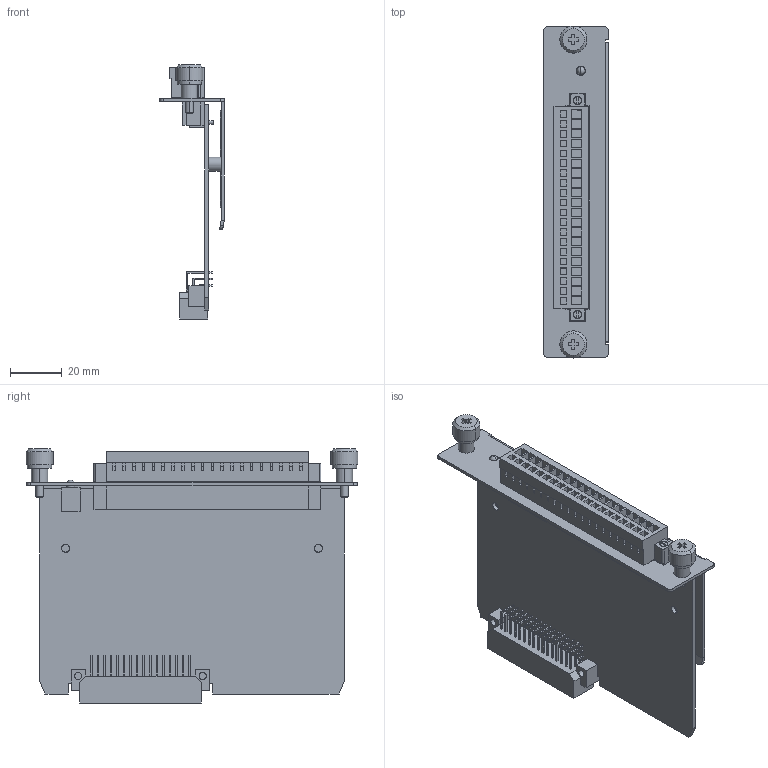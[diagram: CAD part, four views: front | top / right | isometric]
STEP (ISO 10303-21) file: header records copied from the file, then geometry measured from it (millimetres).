
FILE_DESCRIPTION((''),'2;1');
FILE_NAME('PRT0001','2015-09-17T',('Sam_Liu'),('PTC'),'PRO/ENGINEER BY PARAMETRIC TECHNOLOGY CORPORATION, 2013230','PRO/ENGINEER BY PARAMETRIC TECHNOLOGY CORPORATION, 2013230','');
FILE_SCHEMA(('AUTOMOTIVE_DESIGN { 1 0 10303 214 1 1 1 1 }'));
Length unit declared in the file: millimetre
Products named in the file (1): PRT0001
Bounding box: 25 x 128.7 x 98.5 mm (x, y, z)
Volume: 47971.3 mm3; surface area: 54837.5 mm2
Topology: 1 solids, 6 shells, 1514 faces, 4003 edges, 2643 vertices
Faces by surface type: plane 1284, cylinder 176, torus 44, cone 8, sphere 2
Entity records: 47577 total; most frequent: CARTESIAN_POINT 8576, ORIENTED_EDGE 8002, DIRECTION 7442, EDGE_CURVE 4001, VECTOR 3496, LINE 3496, VERTEX_POINT 2643, AXIS2_PLACEMENT_3D 1973
